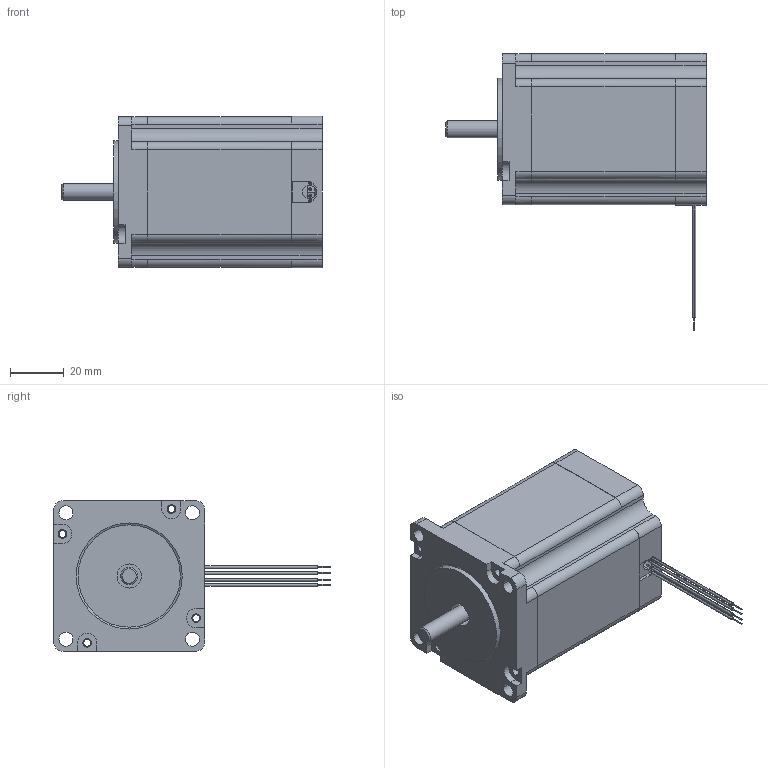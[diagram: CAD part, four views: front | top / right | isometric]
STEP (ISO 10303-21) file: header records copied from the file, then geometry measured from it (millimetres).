
FILE_DESCRIPTION( ('This file contains a STEP AP42 implementation' ,'as created by ZW3D STEP Interface translator.' ,'') ,'2;1' );
FILE_NAME( '57HS76H-XXXX-XXX.stp' ,'26 115.101029', (''), ('ZWCAD Software Co.'), 'Version 1.0', 'ZW3D to STEP translator', '' );
FILE_SCHEMA(('AUTOMOTIVE_DESIGN { 1 0 10303 214 1 1 1 1 }'));
Length unit declared in the file: millimetre
Products named in the file (1): 0
Bounding box: 97 x 103.22 x 56.44 mm (x, y, z)
Volume: 106551.6 mm3; surface area: 70404.8 mm2
Topology: 4 solids, 4 shells, 1232 faces, 3921 edges, 2539 vertices
Faces by surface type: cylinder 557, plane 507, torus 112, cone 52, bspline 4
Full cylindrical faces by diameter (mm): 6.35 x2, 38.1 x1
Entity records: 45763 total; most frequent: CARTESIAN_POINT 8197, DIRECTION 7956, ORIENTED_EDGE 7842, EDGE_CURVE 3921, AXIS2_PLACEMENT_3D 2868, VERTEX_POINT 2539, VECTOR 2220, LINE 2220
